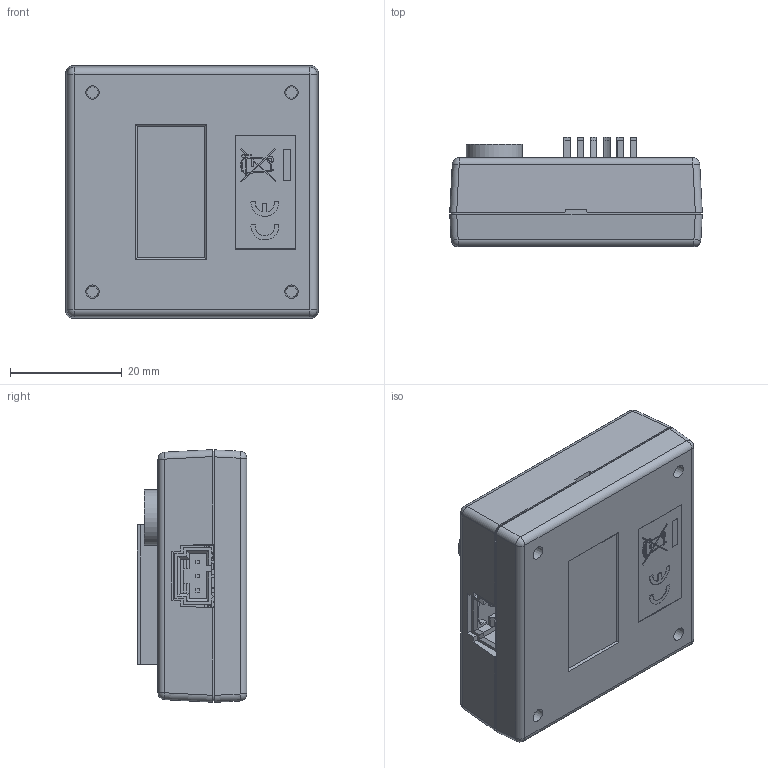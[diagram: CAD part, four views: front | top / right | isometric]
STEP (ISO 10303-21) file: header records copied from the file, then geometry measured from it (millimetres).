
FILE_DESCRIPTION(/* description */ ('Alibre Inc.'),/* implementation_level */ '2;1');
FILE_NAME(/* name */ 'export-B6D007C4-8AC5-4213-83AD-2C7A7D0901C2',/* time_stamp */ '2019-05-16T15:05:39-06:00',/* author */ (''),/* organization */ (''),/* preprocessor_version */ 'ST-DEVELOPER v17',/* originating_system */ 'Alibre',/* authorisation */ '');
FILE_SCHEMA (('CONFIG_CONTROL_DESIGN'));
Length unit declared in the file: centimetre
Products named in the file (161): ID_1; ID_2; ID_3; ID_4; ID_5; ID_6; ID_7; ID_8; ID_9; ID_10; ID_11; ID_12; ID_13; ID_14; ID_15; ID_16; ID_17; ID_18; ID_19; ID_20; ID_21; ID_22; ID_23; ID_24; ID_25; ID_26; ID_27; ID_28; ID_29; ID_30; ID_31; ID_32; ID_33; ID_34; ID_35; ID_36; ID_37; ID_38; ID_39; ID_40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
Bounding box: 45.11 x 19.56 x 45.12 mm (x, y, z)
Volume: 19970.5 mm3; surface area: 28908.9 mm2
Topology: 212 solids, 212 shells, 3689 faces, 9358 edges, 6131 vertices
Faces by surface type: plane 3194, cylinder 434, bspline 27, cone 24, sphere 10
Full cylindrical faces by diameter (mm): 0.6 x1, 0.965 x3, 1 x2, 1.067 x2, 1.321 x6, 1.575 x4, 1.778 x4, 3 x6, 3.048 x4, 3.099 x4, 3.175 x4, 10 x1, 11 x1
Entity records: 59459 total; most frequent: CARTESIAN_POINT 8535, ORIENTED_EDGE 6624, DIRECTION 6092, EDGE_CURVE 3312, VECTOR 2786, LINE 2786, VERTEX_POINT 2177, AXIS2_PLACEMENT_3D 2152
